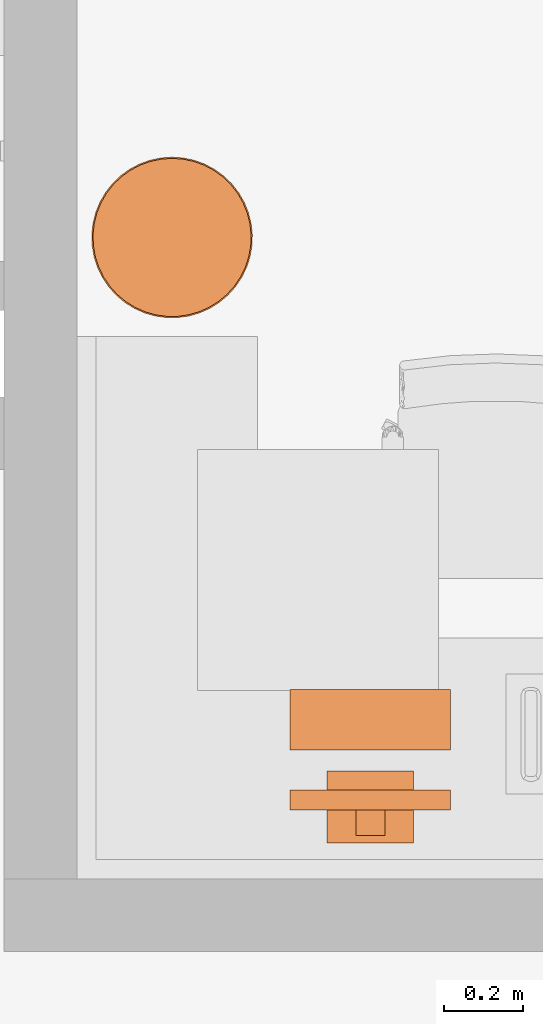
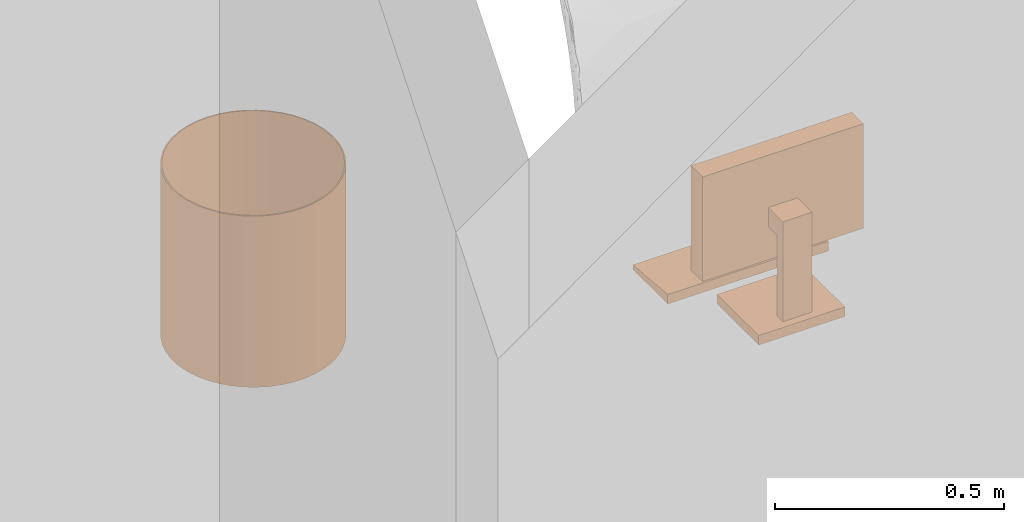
# One storey, part 81 of 142: 2 proxies.
"""IFC2X3 building model written with IfcOpenShell, lengths in feet."""

from ifc_helpers import new_model, entity, si_unit, converted_unit, derived_unit, direction, frame, frame_2d, origin, place, context, subcontext, project, spatial, circle, hollow_circle, extrude, faceted_brep, source, transform, mapped, type_object, type_shapes, element, save


model = new_model("IFC2X3")

# Units and contexts
model_context = context("Model", 3, precision=0.0001, world=origin(), true_north=direction((6.12303176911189e-17, 1.0)))
body_context = subcontext(model_context, "Body", "Model", "MODEL_VIEW")
ifc_project = project(units=[converted_unit("LENGTHUNIT", "FOOT", entity("IfcRatioMeasure", 0.3048), si_unit("LENGTHUNIT", "METRE"), dimensions=[1, 0, 0, 0, 0, 0, 0]), converted_unit("AREAUNIT", "SQUARE FOOT", entity("IfcRatioMeasure", 0.09290304), si_unit("AREAUNIT", "SQUARE_METRE"), dimensions=[2, 0, 0, 0, 0, 0, 0]), converted_unit("VOLUMEUNIT", "CUBIC FOOT", entity("IfcRatioMeasure", 0.028316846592), si_unit("VOLUMEUNIT", "CUBIC_METRE"), dimensions=[3, 0, 0, 0, 0, 0, 0]), converted_unit("PLANEANGLEUNIT", "DEGREE", entity("IfcRatioMeasure", 0.0174532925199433), si_unit("PLANEANGLEUNIT", "RADIAN"), dimensions=[0, 0, 0, 0, 0, 0, 0]), si_unit("MASSUNIT", "GRAM", prefix="KILO"), derived_unit("MASSDENSITYUNIT", [(si_unit("MASSUNIT", "GRAM", prefix="KILO"), 1), (si_unit("LENGTHUNIT", "METRE"), -3)]), si_unit("TIMEUNIT", "SECOND"), si_unit("FREQUENCYUNIT", "HERTZ"), si_unit("THERMODYNAMICTEMPERATUREUNIT", "DEGREE_CELSIUS"), derived_unit("THERMALTRANSMITTANCEUNIT", [(si_unit("MASSUNIT", "GRAM", prefix="KILO"), 1), (si_unit("THERMODYNAMICTEMPERATUREUNIT", "KELVIN"), -1), (si_unit("TIMEUNIT", "SECOND"), -3)]), derived_unit("VOLUMETRICFLOWRATEUNIT", [(si_unit("LENGTHUNIT", "METRE"), 3), (si_unit("TIMEUNIT", "SECOND"), -1)]), si_unit("ELECTRICCURRENTUNIT", "AMPERE"), si_unit("ELECTRICVOLTAGEUNIT", "VOLT"), si_unit("POWERUNIT", "WATT"), si_unit("FORCEUNIT", "NEWTON"), si_unit("ILLUMINANCEUNIT", "LUX"), si_unit("LUMINOUSFLUXUNIT", "LUMEN"), si_unit("LUMINOUSINTENSITYUNIT", "CANDELA"), derived_unit("USERDEFINED", [(si_unit("MASSUNIT", "GRAM", prefix="KILO"), -1), (si_unit("LENGTHUNIT", "METRE"), -2), (si_unit("TIMEUNIT", "SECOND"), 3), (si_unit("LUMINOUSFLUXUNIT", "LUMEN"), 1)]), derived_unit("LINEARVELOCITYUNIT", [(si_unit("LENGTHUNIT", "METRE"), 1), (si_unit("TIMEUNIT", "SECOND"), -1)]), si_unit("PRESSUREUNIT", "PASCAL"), derived_unit("USERDEFINED", [(si_unit("LENGTHUNIT", "METRE"), -2), (si_unit("MASSUNIT", "GRAM", prefix="KILO"), 1), (si_unit("TIMEUNIT", "SECOND"), -2)])], contexts=[model_context])

# Site, building, storey, space
site_placement = place(None, origin())
site = spatial("IfcSite", under=ifc_project, at=site_placement, Name="Default", CompositionType="ELEMENT")
building_placement = place(site_placement, origin())
building = spatial("IfcBuilding", under=site, at=building_placement, Name="OUTPATIENT / PACT CLINIC (Ch. 265)", CompositionType="ELEMENT")
storey_placement = place(building_placement, origin())
storey = spatial("IfcBuildingStorey", under=building, at=storey_placement, Name="LEVEL 1", CompositionType="ELEMENT", Elevation=0.0)
space_placement = place(storey_placement, origin())
space = spatial("IfcSpace", under=storey, at=space_placement, Name="FA01", CompositionType="ELEMENT", InteriorOrExteriorSpace="INTERNAL")

# Proxies
building_element_proxy_type_1 = type_object("IfcBuildingElementProxyType", Name="M1801 - Computer with Flat Panel Monitor", PredefinedType="NOTDEFINED")
shared_shape_1 = source(origin(), body_context, "Body", "Brep", [
    faceted_brep([(0.666666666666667, 0.5625, 0.0), (0.666666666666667, 0.5625, 0.0416666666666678), (0.666666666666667, 0.0624999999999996, 0.0833333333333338), (0.666666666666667, 0.0624999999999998, 0.0), (-0.666666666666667, 0.5625, 0.0), (-0.666666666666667, 0.0624999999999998, 0.0), (-0.666666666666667, 0.0624999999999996, 0.0833333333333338), (-0.666666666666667, 0.5625, 0.0416666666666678)], [[[0, 1, 2, 3]], [[4, 5, 6, 7]], [[3, 5, 4, 0]], [[2, 6, 5, 3]], [[1, 7, 6, 2]], [[0, 4, 7, 1]]]),
    faceted_brep([(0.666666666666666, -0.437223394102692, 1.41666666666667), (0.666666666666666, -0.271109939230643, 1.41666666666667), (-0.666666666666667, -0.271109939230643, 1.41666666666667), (-0.666666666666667, -0.437223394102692, 1.41666666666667), (0.666666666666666, -0.437223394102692, 0.500000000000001), (-0.666666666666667, -0.437223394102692, 0.500000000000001), (-0.666666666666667, -0.271109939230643, 0.500000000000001), (0.666666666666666, -0.271109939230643, 0.500000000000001), (-0.625, -0.271109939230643, 1.375), (-0.625, -0.271109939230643, 0.541666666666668), (0.625, -0.271109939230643, 0.541666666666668), (0.625, -0.271109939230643, 1.375), (0.625, -0.286812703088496, 1.375), (-0.625, -0.286812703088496, 1.375), (0.625, -0.286812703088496, 0.541666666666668), (-0.625, -0.286812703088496, 0.541666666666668)], [[[0, 1, 2, 3]], [[4, 5, 6, 7]], [[3, 5, 4, 0]], [[2, 6, 5, 3]], [[8, 9, 10, 11], [1, 7, 6, 2]], [[0, 4, 7, 1]], [[12, 13, 8, 11]], [[14, 10, 9, 15]], [[12, 14, 15, 13]], [[13, 15, 9, 8]], [[11, 10, 14, 12]]], outer=[[True], [True], [True], [True], [False, True], [True], [True], [True], [True], [True], [True]]),
    faceted_brep([(0.358011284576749, -0.111770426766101, 0.0833333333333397), (0.358011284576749, -0.708333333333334, 0.0833333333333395), (0.358011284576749, -0.708333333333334, 0.0), (0.358011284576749, -0.111770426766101, 0.0), (-0.358011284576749, -0.708333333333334, 0.0833333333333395), (-0.358011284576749, -0.111770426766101, 0.0833333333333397), (-0.358011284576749, -0.111770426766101, 0.0), (-0.358011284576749, -0.708333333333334, 0.0), (0.12128795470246, -0.645556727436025, 0.104166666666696), (-0.12128795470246, -0.645556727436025, 0.104166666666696), (-0.12128795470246, -0.645556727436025, 0.0833333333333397), (0.12128795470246, -0.645556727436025, 0.0833333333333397), (0.12128795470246, -0.645556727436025, 0.958333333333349), (-0.12128795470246, -0.645556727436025, 0.958333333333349), (0.12128795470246, -0.437223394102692, 0.958333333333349), (-0.12128795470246, -0.437223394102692, 0.958333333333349), (0.12128795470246, -0.437223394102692, 0.791666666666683), (-0.12128795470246, -0.437223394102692, 0.791666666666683), (0.12128795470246, -0.562223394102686, 0.791666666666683), (-0.12128795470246, -0.562223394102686, 0.791666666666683), (0.12128795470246, -0.562223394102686, 0.0833333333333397), (-0.12128795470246, -0.562223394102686, 0.0833333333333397)], [[[0, 1, 2, 3]], [[4, 5, 6, 7]], [[8, 9, 10, 11]], [[12, 13, 9, 8]], [[14, 15, 13, 12]], [[16, 17, 15, 14]], [[18, 19, 17, 16]], [[20, 21, 19, 18]], [[11, 10, 21, 20], [0, 5, 4, 1]], [[3, 6, 5, 0]], [[2, 7, 6, 3]], [[1, 4, 7, 2]], [[20, 18, 16, 14, 12, 8, 11]], [[10, 9, 13, 15, 17, 19, 21]]], outer=[[True], [True], [True], [True], [True], [True], [True], [True], [False, True], [True], [True], [True], [True], [True]]),
])
type_shapes(building_element_proxy_type_1, [shared_shape_1])
proxy_1_placement = place(space_placement, frame((420.982314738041, -951.6428482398, 2.49999999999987)))
element("IfcBuildingElementProxy", 1, at=proxy_1_placement, inside=space, type_object=building_element_proxy_type_1, Name="M1801 - Computer with Flat Panel Monitor:M1801 - Computer with Flat Panel Monitor", ObjectType="M1801 - Computer with Flat Panel Monitor", context=body_context, shape_type="MappedRepresentation", body=[
    mapped(shared_shape_1, transform((0.0, 0.0, 0.0), scale=1.0)),
])
building_element_proxy_type_2 = type_object("IfcBuildingElementProxyType", Name="F2000 - Basket, Wastepaper", PredefinedType="NOTDEFINED")
shared_shape_2 = source(origin(), body_context, "Body", "SweptSolid", [
    extrude(circle(Radius=0.666666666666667, at=frame_2d((0.0, -1.07702971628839e-15), x_axis=(1.0, 0.0))), origin(), (0.0, 0.0, 1.0), 0.0104166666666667),
    extrude(hollow_circle(Radius=0.666666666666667, WallThickness=0.0104166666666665, at=frame_2d((0.0, -1.07702971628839e-15), x_axis=(1.0, 0.0))), frame((0.0, 0.0, 0.0104166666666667)), (0.0, 0.0, 1.0), 1.48958333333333),
])
type_shapes(building_element_proxy_type_2, [shared_shape_2])
proxy_2_placement = place(space_placement, frame((419.336366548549, -947.326739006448, 0.0), z_axis=(0.0, 0.0, 1.0), x_axis=(0.0, 1.0, 0.0)))
element("IfcBuildingElementProxy", 2, at=proxy_2_placement, inside=space, type_object=building_element_proxy_type_2, Name="F2000 - Basket, Wastepaper:F2000 - Basket, Wastepaper", ObjectType="F2000 - Basket, Wastepaper", context=body_context, shape_type="MappedRepresentation", body=[
    mapped(shared_shape_2, transform((0.0, 0.0, 0.0), scale=1.0)),
])

save(model, "model.ifc")
